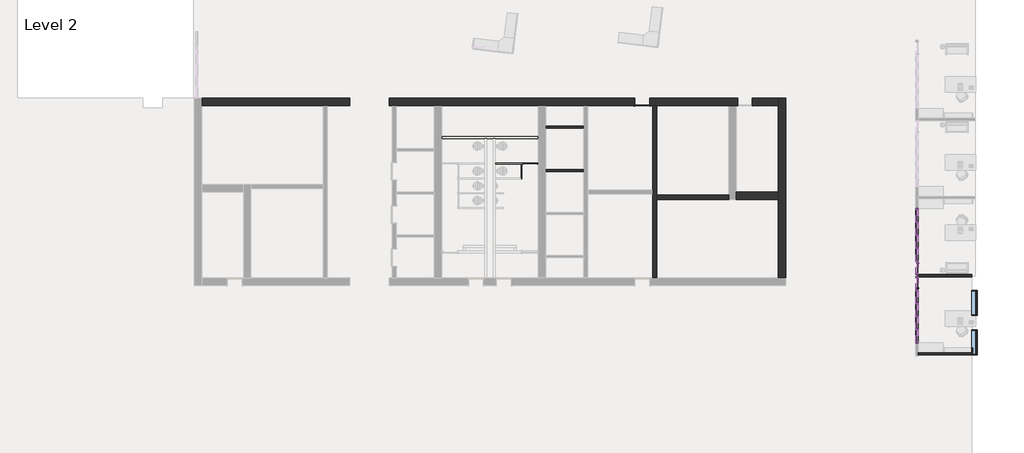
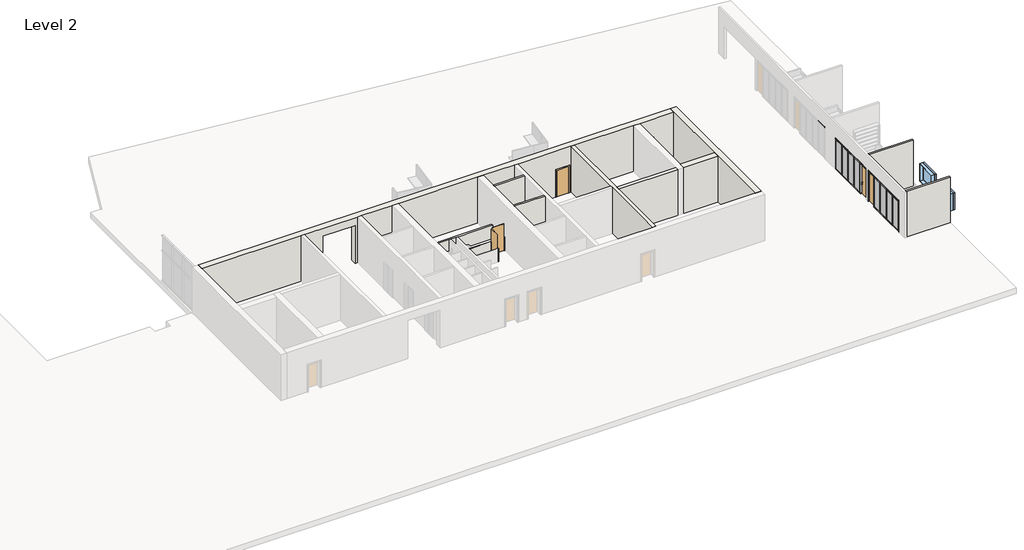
# One storey, part 2 of 7: 53 members, 18 plates, 12 walls, 5 doors, 2 windows.
"""IFC4 building model written with IfcOpenShell, lengths in millimetres."""

from ifc_helpers import new_model, si_unit, frame, origin, place, context, project, spatial, polyline, outline, extrude, faceted_brep, transform, mapped, element, save
from components import curtain_wall_sgl_glass_curtain_wall_sgl_glass_683140d0, curtain_wall_sgl_glass_curtain_wall_sgl_glass_5192a5a3, door_aec9db07, toilet_partitions_2_10_0724d611, door_243abaaa, member_9597caa3, member_b2bde9e6, member_ee409385, member_7ffbafd8, member_47ea2df9, member_5507c937, member_0e55f5ff, member_6d48148e, member_7899ddbe, system_panel_glazed_8093bbd9, system_panel_glazed_f9de1280, system_panel_glazed_6896c6c0, system_panel_glazed_50fd444c, window_7a027cf8

model = new_model("IFC4")

# Units and contexts
model_context = context("Model", 3, world=origin())
ifc_project = project(units=[si_unit("LENGTHUNIT", "METRE", prefix="MILLI")], contexts=[model_context])

# Site, building, storey
site = spatial("IfcSite", under=ifc_project)
building = spatial("IfcBuilding", under=site)
storey = spatial("IfcBuildingStorey", under=building, Name="Level 2", Elevation=3657.6)

# Doors
placement = place(None, origin())
curtain_wall_sgl_glass_curtain_wall_sgl_glass_shape = curtain_wall_sgl_glass_curtain_wall_sgl_glass_683140d0(model_context)
element("IfcDoor", 1, ObjectType="Curtain Wall Sgl Glass : Curtain Wall Sgl Glass", at=placement, inside=storey, context=model_context, shape_type="MappedRepresentation", body=[
    mapped(curtain_wall_sgl_glass_curtain_wall_sgl_glass_shape, transform((11449.2054088, -14715.1428492, 3657.6), x_axis=(0.0, 1.0, 0.0), y_axis=(-1.0, 0.0, 0.0), z_axis=(0.0, 0.0, 1.0))),
])
curtain_wall_sgl_glass_curtain_wall_sgl_glass_2_shape = curtain_wall_sgl_glass_curtain_wall_sgl_glass_5192a5a3(model_context)
element("IfcDoor", 2, ObjectType="Curtain Wall Sgl Glass : Curtain Wall Sgl Glass", at=placement, inside=storey, context=model_context, shape_type="MappedRepresentation", body=[
    mapped(curtain_wall_sgl_glass_curtain_wall_sgl_glass_2_shape, transform((11449.2054088, -13709.3028492, 3657.6), x_axis=(0.0, -1.0, 0.0), y_axis=(1.0, 0.0, 0.0), z_axis=(0.0, 0.0, 1.0))),
])
door_shape = door_aec9db07(model_context)
element("IfcDoor", 3, ObjectType="Single-Flush : 36\" x 84\"", at=placement, inside=storey, context=model_context, shape_type="MappedRepresentation", body=[
    mapped(door_shape, transform((-5525.0427926, -3469.6103492, 3657.6), x_axis=(1.0, 0.0, 0.0), y_axis=(0.0, 1.0, 0.0), z_axis=(0.0, 0.0, 1.0))),
])
toilet_partitions_2_10_shape = toilet_partitions_2_10_0724d611(model_context)
element("IfcDoor", 4, ObjectType="toilet Partitions : 2'10", at=placement, inside=storey, context=model_context, shape_type="MappedRepresentation", body=[
    mapped(toilet_partitions_2_10_shape, transform((-12449.7428559, -7282.7853492, 3657.6), x_axis=(1.0, 0.0, 0.0), y_axis=(0.0, 1.0, 0.0), z_axis=(0.0, 0.0, 1.0))),
])
door_2_shape = door_243abaaa(model_context)
element("IfcDoor", 5, ObjectType="toilet Partitions : 2'5\"", at=placement, inside=storey, context=model_context, shape_type="MappedRepresentation", body=[
    mapped(door_2_shape, transform((-12985.3856498, -7739.9853492, 3657.6), x_axis=(0.0, -1.0, 0.0), y_axis=(1.0, 0.0, 0.0), z_axis=(0.0, 0.0, 1.0))),
])

# Members
member_shape = member_9597caa3(model_context)
element("IfcMember", 6, ObjectType="Rectangular Mullion : 2.5\" x 5\" rectangular", at=placement, inside=storey, context=model_context, shape_type="MappedRepresentation", body=[
    mapped(member_shape, transform((11449.2054088, -13307.9828492, 3721.1), x_axis=(0.0, 1.0, 0.0), y_axis=(1.0, 0.0, 0.0), z_axis=(0.0, 0.0, -1.0))),
])
element("IfcMember", 7, ObjectType="Rectangular Mullion : 2.5\" x 5\" rectangular", at=placement, inside=storey, context=model_context, shape_type="MappedRepresentation", body=[
    mapped(member_shape, transform((11449.2054088, -12505.3428492, 3721.1), x_axis=(0.0, 1.0, 0.0), y_axis=(1.0, 0.0, 0.0), z_axis=(0.0, 0.0, -1.0))),
])
element("IfcMember", 8, ObjectType="Rectangular Mullion : 2.5\" x 5\" rectangular", at=placement, inside=storey, context=model_context, shape_type="MappedRepresentation", body=[
    mapped(member_shape, transform((11449.2054088, -11702.7028492, 3721.1), x_axis=(0.0, 1.0, 0.0), y_axis=(1.0, 0.0, 0.0), z_axis=(0.0, 0.0, -1.0))),
])
element("IfcMember", 9, ObjectType="Rectangular Mullion : 2.5\" x 5\" rectangular", at=placement, inside=storey, context=model_context, shape_type="MappedRepresentation", body=[
    mapped(member_shape, transform((11449.2054088, -10900.0628492, 3721.1), x_axis=(0.0, 1.0, 0.0), y_axis=(1.0, 0.0, 0.0), z_axis=(0.0, 0.0, -1.0))),
])
member_2_shape = member_b2bde9e6(model_context)
element("IfcMember", 10, ObjectType="Rectangular Mullion : 2.5\" x 5\" rectangular", at=placement, inside=storey, context=model_context, shape_type="MappedRepresentation", body=[
    mapped(member_2_shape, transform((11449.2054088, -10065.6728492, 3721.1), x_axis=(0.0, 1.0, 0.0), y_axis=(1.0, 0.0, 0.0), z_axis=(0.0, 0.0, -1.0))),
])
element("IfcMember", 11, ObjectType="Rectangular Mullion : 2.5\" x 5\" rectangular", at=placement, inside=storey, context=model_context, shape_type="MappedRepresentation", body=[
    mapped(member_shape, transform((11449.2054088, -15116.4628492, 3721.1), x_axis=(0.0, -1.0, 0.0), y_axis=(-1.0, 0.0, 0.0), z_axis=(0.0, 0.0, -1.0))),
])
element("IfcMember", 12, ObjectType="Rectangular Mullion : 2.5\" x 5\" rectangular", at=placement, inside=storey, context=model_context, shape_type="MappedRepresentation", body=[
    mapped(member_shape, transform((11449.2054088, -15919.1028492, 3721.1), x_axis=(0.0, -1.0, 0.0), y_axis=(-1.0, 0.0, 0.0), z_axis=(0.0, 0.0, -1.0))),
])
element("IfcMember", 13, ObjectType="Rectangular Mullion : 2.5\" x 5\" rectangular", at=placement, inside=storey, context=model_context, shape_type="MappedRepresentation", body=[
    mapped(member_shape, transform((11449.2054088, -16721.7428492, 3721.1), x_axis=(0.0, -1.0, 0.0), y_axis=(-1.0, 0.0, 0.0), z_axis=(0.0, 0.0, -1.0))),
])
element("IfcMember", 14, ObjectType="Rectangular Mullion : 2.5\" x 5\" rectangular", at=placement, inside=storey, context=model_context, shape_type="MappedRepresentation", body=[
    mapped(member_shape, transform((11449.2054088, -17524.3828492, 3721.1), x_axis=(0.0, -1.0, 0.0), y_axis=(-1.0, 0.0, 0.0), z_axis=(0.0, 0.0, -1.0))),
])
element("IfcMember", 15, ObjectType="Rectangular Mullion : 2.5\" x 5\" rectangular", at=placement, inside=storey, context=model_context, shape_type="MappedRepresentation", body=[
    mapped(member_2_shape, transform((11449.2054088, -18358.7728492, 3721.1), x_axis=(0.0, -1.0, 0.0), y_axis=(-1.0, 0.0, 0.0), z_axis=(0.0, 0.0, -1.0))),
])
member_3_shape = member_ee409385(model_context)
element("IfcMember", 16, ObjectType="Rectangular Mullion : 2.5\" x 5\" rectangular", at=placement, inside=storey, context=model_context, shape_type="MappedRepresentation", body=[
    mapped(member_3_shape, transform((11449.2054088, -14142.3728492, 6096.0), x_axis=(0.0, -1.0, 0.0), y_axis=(1.0, 0.0, 0.0), z_axis=(0.0, 0.0, 1.0))),
])
member_4_shape = member_7ffbafd8(model_context)
element("IfcMember", 17, ObjectType="Rectangular Mullion : 2.5\" x 5\" rectangular", at=placement, inside=storey, context=model_context, shape_type="MappedRepresentation", body=[
    mapped(member_4_shape, transform((11449.2054088, -8689.7642481, 6197.6), x_axis=(0.0, 0.0, 1.0), y_axis=(-1.0, 0.0, 0.0), z_axis=(0.0, -1.0, 0.0))),
])
element("IfcMember", 18, ObjectType="Rectangular Mullion : 2.5\" x 5\" rectangular", at=placement, inside=storey, context=model_context, shape_type="MappedRepresentation", body=[
    mapped(member_4_shape, transform((11449.2054088, -18358.7728492, 6197.6), x_axis=(0.0, 0.0, 1.0), y_axis=(-1.0, 0.0, 0.0), z_axis=(0.0, -1.0, 0.0))),
])
element("IfcMember", 19, ObjectType="Rectangular Mullion : 2.5\" x 5\" rectangular", at=placement, inside=storey, context=model_context, shape_type="MappedRepresentation", body=[
    mapped(member_4_shape, transform((11449.2054088, -15116.4628492, 6197.6), x_axis=(0.0, 0.0, 1.0), y_axis=(-1.0, 0.0, 0.0), z_axis=(0.0, -1.0, 0.0))),
])
element("IfcMember", 20, ObjectType="Rectangular Mullion : 2.5\" x 5\" rectangular", at=placement, inside=storey, context=model_context, shape_type="MappedRepresentation", body=[
    mapped(member_4_shape, transform((11449.2054088, -15084.7128492, 3657.6), x_axis=(0.0, 0.0, -1.0), y_axis=(-1.0, 0.0, 0.0), z_axis=(0.0, 1.0, 0.0))),
])
member_5_shape = member_47ea2df9(model_context)
element("IfcMember", 21, ObjectType="Rectangular Mullion : 2.5\" x 5\" rectangular", at=placement, inside=storey, context=model_context, shape_type="MappedRepresentation", body=[
    mapped(member_5_shape, transform((11449.2054088, -15919.1028492, 6096.0), x_axis=(0.0, 0.0, 1.0), y_axis=(-1.0, 0.0, 0.0), z_axis=(0.0, -1.0, 0.0))),
])
element("IfcMember", 22, ObjectType="Rectangular Mullion : 2.5\" x 5\" rectangular", at=placement, inside=storey, context=model_context, shape_type="MappedRepresentation", body=[
    mapped(member_5_shape, transform((11449.2054088, -16721.7428492, 6096.0), x_axis=(0.0, 0.0, 1.0), y_axis=(-1.0, 0.0, 0.0), z_axis=(0.0, -1.0, 0.0))),
])
element("IfcMember", 23, ObjectType="Rectangular Mullion : 2.5\" x 5\" rectangular", at=placement, inside=storey, context=model_context, shape_type="MappedRepresentation", body=[
    mapped(member_5_shape, transform((11449.2054088, -17524.3828492, 6096.0), x_axis=(0.0, 0.0, 1.0), y_axis=(-1.0, 0.0, 0.0), z_axis=(0.0, -1.0, 0.0))),
])
member_6_shape = member_5507c937(model_context)
element("IfcMember", 24, ObjectType="Rectangular Mullion : 2.5\" x 5\" rectangular", at=placement, inside=storey, context=model_context, shape_type="MappedRepresentation", body=[
    mapped(member_6_shape, transform((11449.2054088, -15919.1028492, 6197.6), x_axis=(0.0, 0.0, 1.0), y_axis=(-1.0, 0.0, 0.0), z_axis=(0.0, -1.0, 0.0))),
])
element("IfcMember", 25, ObjectType="Rectangular Mullion : 2.5\" x 5\" rectangular", at=placement, inside=storey, context=model_context, shape_type="MappedRepresentation", body=[
    mapped(member_6_shape, transform((11449.2054088, -16721.7428492, 6197.6), x_axis=(0.0, 0.0, 1.0), y_axis=(-1.0, 0.0, 0.0), z_axis=(0.0, -1.0, 0.0))),
])
element("IfcMember", 26, ObjectType="Rectangular Mullion : 2.5\" x 5\" rectangular", at=placement, inside=storey, context=model_context, shape_type="MappedRepresentation", body=[
    mapped(member_6_shape, transform((11449.2054088, -17524.3828492, 6197.6), x_axis=(0.0, 0.0, 1.0), y_axis=(-1.0, 0.0, 0.0), z_axis=(0.0, -1.0, 0.0))),
])
element("IfcMember", 27, ObjectType="Rectangular Mullion : 2.5\" x 5\" rectangular", at=placement, inside=storey, context=model_context, shape_type="MappedRepresentation", body=[
    mapped(member_6_shape, transform((11449.2054088, -15919.1028492, 3657.6), x_axis=(0.0, 0.0, -1.0), y_axis=(-1.0, 0.0, 0.0), z_axis=(0.0, 1.0, 0.0))),
])
element("IfcMember", 28, ObjectType="Rectangular Mullion : 2.5\" x 5\" rectangular", at=placement, inside=storey, context=model_context, shape_type="MappedRepresentation", body=[
    mapped(member_6_shape, transform((11449.2054088, -16721.7428492, 3657.6), x_axis=(0.0, 0.0, -1.0), y_axis=(-1.0, 0.0, 0.0), z_axis=(0.0, 1.0, 0.0))),
])
element("IfcMember", 29, ObjectType="Rectangular Mullion : 2.5\" x 5\" rectangular", at=placement, inside=storey, context=model_context, shape_type="MappedRepresentation", body=[
    mapped(member_4_shape, transform((11449.2054088, -17524.3828492, 3657.6), x_axis=(0.0, 0.0, -1.0), y_axis=(-1.0, 0.0, 0.0), z_axis=(0.0, 1.0, 0.0))),
])
member_7_shape = member_0e55f5ff(model_context)
element("IfcMember", 30, ObjectType="Rectangular Mullion : 2.5\" x 5\" rectangular", at=placement, inside=storey, context=model_context, shape_type="MappedRepresentation", body=[
    mapped(member_7_shape, transform((11449.2054088, -18295.2728492, 6096.0), x_axis=(0.0, 0.0, 1.0), y_axis=(-1.0, 0.0, 0.0), z_axis=(0.0, -1.0, 0.0))),
])
element("IfcMember", 31, ObjectType="Rectangular Mullion : 2.5\" x 5\" rectangular", at=placement, inside=storey, context=model_context, shape_type="MappedRepresentation", body=[
    mapped(member_7_shape, transform((11449.2054088, -15116.4628492, 6096.0), x_axis=(0.0, 0.0, 1.0), y_axis=(-1.0, 0.0, 0.0), z_axis=(0.0, -1.0, 0.0))),
])
element("IfcMember", 32, ObjectType="Rectangular Mullion : 2.5\" x 5\" rectangular", at=placement, inside=storey, context=model_context, shape_type="MappedRepresentation", body=[
    mapped(member_3_shape, transform((11449.2054088, -14282.0728492, 6096.0), x_axis=(0.0, 1.0, 0.0), y_axis=(-1.0, 0.0, 0.0), z_axis=(0.0, 0.0, 1.0))),
])
element("IfcMember", 33, ObjectType="Rectangular Mullion : 2.5\" x 5\" rectangular", at=placement, inside=storey, context=model_context, shape_type="MappedRepresentation", body=[
    mapped(member_4_shape, transform((11449.2054088, -10065.6728492, 6197.6), x_axis=(0.0, 0.0, 1.0), y_axis=(1.0, 0.0, 0.0), z_axis=(0.0, 1.0, 0.0))),
])
element("IfcMember", 34, ObjectType="Rectangular Mullion : 2.5\" x 5\" rectangular", at=placement, inside=storey, context=model_context, shape_type="MappedRepresentation", body=[
    mapped(member_4_shape, transform((11449.2054088, -13307.9828492, 6197.6), x_axis=(0.0, 0.0, 1.0), y_axis=(1.0, 0.0, 0.0), z_axis=(0.0, 1.0, 0.0))),
])
element("IfcMember", 35, ObjectType="Rectangular Mullion : 2.5\" x 5\" rectangular", at=placement, inside=storey, context=model_context, shape_type="MappedRepresentation", body=[
    mapped(member_4_shape, transform((11449.2054088, -13339.7328492, 3657.6), x_axis=(0.0, 0.0, -1.0), y_axis=(1.0, 0.0, 0.0), z_axis=(0.0, -1.0, 0.0))),
])
element("IfcMember", 36, ObjectType="Rectangular Mullion : 2.5\" x 5\" rectangular", at=placement, inside=storey, context=model_context, shape_type="MappedRepresentation", body=[
    mapped(member_5_shape, transform((11449.2054088, -12505.3428492, 6096.0), x_axis=(0.0, 0.0, 1.0), y_axis=(1.0, 0.0, 0.0), z_axis=(0.0, 1.0, 0.0))),
])
element("IfcMember", 37, ObjectType="Rectangular Mullion : 2.5\" x 5\" rectangular", at=placement, inside=storey, context=model_context, shape_type="MappedRepresentation", body=[
    mapped(member_5_shape, transform((11449.2054088, -11702.7028492, 6096.0), x_axis=(0.0, 0.0, 1.0), y_axis=(1.0, 0.0, 0.0), z_axis=(0.0, 1.0, 0.0))),
])
element("IfcMember", 38, ObjectType="Rectangular Mullion : 2.5\" x 5\" rectangular", at=placement, inside=storey, context=model_context, shape_type="MappedRepresentation", body=[
    mapped(member_5_shape, transform((11449.2054088, -10900.0628492, 6096.0), x_axis=(0.0, 0.0, 1.0), y_axis=(1.0, 0.0, 0.0), z_axis=(0.0, 1.0, 0.0))),
])
element("IfcMember", 39, ObjectType="Rectangular Mullion : 2.5\" x 5\" rectangular", at=placement, inside=storey, context=model_context, shape_type="MappedRepresentation", body=[
    mapped(member_6_shape, transform((11449.2054088, -12505.3428492, 6197.6), x_axis=(0.0, 0.0, 1.0), y_axis=(1.0, 0.0, 0.0), z_axis=(0.0, 1.0, 0.0))),
])
element("IfcMember", 40, ObjectType="Rectangular Mullion : 2.5\" x 5\" rectangular", at=placement, inside=storey, context=model_context, shape_type="MappedRepresentation", body=[
    mapped(member_6_shape, transform((11449.2054088, -11702.7028492, 6197.6), x_axis=(0.0, 0.0, 1.0), y_axis=(1.0, 0.0, 0.0), z_axis=(0.0, 1.0, 0.0))),
])
element("IfcMember", 41, ObjectType="Rectangular Mullion : 2.5\" x 5\" rectangular", at=placement, inside=storey, context=model_context, shape_type="MappedRepresentation", body=[
    mapped(member_6_shape, transform((11449.2054088, -10900.0628492, 6197.6), x_axis=(0.0, 0.0, 1.0), y_axis=(1.0, 0.0, 0.0), z_axis=(0.0, 1.0, 0.0))),
])
element("IfcMember", 42, ObjectType="Rectangular Mullion : 2.5\" x 5\" rectangular", at=placement, inside=storey, context=model_context, shape_type="MappedRepresentation", body=[
    mapped(member_6_shape, transform((11449.2054088, -12505.3428492, 3657.6), x_axis=(0.0, 0.0, -1.0), y_axis=(1.0, 0.0, 0.0), z_axis=(0.0, -1.0, 0.0))),
])
element("IfcMember", 43, ObjectType="Rectangular Mullion : 2.5\" x 5\" rectangular", at=placement, inside=storey, context=model_context, shape_type="MappedRepresentation", body=[
    mapped(member_6_shape, transform((11449.2054088, -11702.7028492, 3657.6), x_axis=(0.0, 0.0, -1.0), y_axis=(1.0, 0.0, 0.0), z_axis=(0.0, -1.0, 0.0))),
])
element("IfcMember", 44, ObjectType="Rectangular Mullion : 2.5\" x 5\" rectangular", at=placement, inside=storey, context=model_context, shape_type="MappedRepresentation", body=[
    mapped(member_4_shape, transform((11449.2054088, -10900.0628492, 3657.6), x_axis=(0.0, 0.0, -1.0), y_axis=(1.0, 0.0, 0.0), z_axis=(0.0, -1.0, 0.0))),
])
element("IfcMember", 45, ObjectType="Rectangular Mullion : 2.5\" x 5\" rectangular", at=placement, inside=storey, context=model_context, shape_type="MappedRepresentation", body=[
    mapped(member_7_shape, transform((11449.2054088, -10129.1728492, 6096.0), x_axis=(0.0, 0.0, 1.0), y_axis=(1.0, 0.0, 0.0), z_axis=(0.0, 1.0, 0.0))),
])
element("IfcMember", 46, ObjectType="Rectangular Mullion : 2.5\" x 5\" rectangular", at=placement, inside=storey, context=model_context, shape_type="MappedRepresentation", body=[
    mapped(member_7_shape, transform((11449.2054088, -13307.9828492, 6096.0), x_axis=(0.0, 0.0, 1.0), y_axis=(1.0, 0.0, 0.0), z_axis=(0.0, 1.0, 0.0))),
])
member_8_shape = member_6d48148e(model_context)
element("IfcMember", 47, ObjectType="Rectangular Mullion : 2.5\" x 5\" rectangular", at=placement, inside=storey, context=model_context, shape_type="MappedRepresentation", body=[
    mapped(member_8_shape, transform((11449.2054088, -13307.9828492, 6127.75), x_axis=(0.0, 1.0, 0.0), y_axis=(1.0, 0.0, 0.0), z_axis=(0.0, 0.0, -1.0))),
])
element("IfcMember", 48, ObjectType="Rectangular Mullion : 2.5\" x 5\" rectangular", at=placement, inside=storey, context=model_context, shape_type="MappedRepresentation", body=[
    mapped(member_8_shape, transform((11449.2054088, -12505.3428492, 6127.75), x_axis=(0.0, 1.0, 0.0), y_axis=(1.0, 0.0, 0.0), z_axis=(0.0, 0.0, -1.0))),
])
element("IfcMember", 49, ObjectType="Rectangular Mullion : 2.5\" x 5\" rectangular", at=placement, inside=storey, context=model_context, shape_type="MappedRepresentation", body=[
    mapped(member_8_shape, transform((11449.2054088, -11702.7028492, 6127.75), x_axis=(0.0, 1.0, 0.0), y_axis=(1.0, 0.0, 0.0), z_axis=(0.0, 0.0, -1.0))),
])
element("IfcMember", 50, ObjectType="Rectangular Mullion : 2.5\" x 5\" rectangular", at=placement, inside=storey, context=model_context, shape_type="MappedRepresentation", body=[
    mapped(member_8_shape, transform((11449.2054088, -10900.0628492, 6127.75), x_axis=(0.0, 1.0, 0.0), y_axis=(1.0, 0.0, 0.0), z_axis=(0.0, 0.0, -1.0))),
])
member_9_shape = member_7899ddbe(model_context)
element("IfcMember", 51, ObjectType="Rectangular Mullion : 2.5\" x 5\" rectangular", at=placement, inside=storey, context=model_context, shape_type="MappedRepresentation", body=[
    mapped(member_9_shape, transform((11449.2054088, -10065.6728492, 6096.0), x_axis=(0.0, 1.0, 0.0), y_axis=(1.0, 0.0, 0.0), z_axis=(0.0, 0.0, -1.0))),
])
element("IfcMember", 52, ObjectType="Rectangular Mullion : 2.5\" x 5\" rectangular", at=placement, inside=storey, context=model_context, shape_type="MappedRepresentation", body=[
    mapped(member_9_shape, transform((11449.2054088, -14142.3728492, 6134.1), x_axis=(0.0, -1.0, 0.0), y_axis=(1.0, 0.0, 0.0), z_axis=(0.0, 0.0, 1.0))),
])
element("IfcMember", 53, ObjectType="Rectangular Mullion : 2.5\" x 5\" rectangular", at=placement, inside=storey, context=model_context, shape_type="MappedRepresentation", body=[
    mapped(member_8_shape, transform((11449.2054088, -15116.4628492, 6127.75), x_axis=(0.0, -1.0, 0.0), y_axis=(-1.0, 0.0, 0.0), z_axis=(0.0, 0.0, -1.0))),
])
element("IfcMember", 54, ObjectType="Rectangular Mullion : 2.5\" x 5\" rectangular", at=placement, inside=storey, context=model_context, shape_type="MappedRepresentation", body=[
    mapped(member_8_shape, transform((11449.2054088, -15919.1028492, 6127.75), x_axis=(0.0, -1.0, 0.0), y_axis=(-1.0, 0.0, 0.0), z_axis=(0.0, 0.0, -1.0))),
])
element("IfcMember", 55, ObjectType="Rectangular Mullion : 2.5\" x 5\" rectangular", at=placement, inside=storey, context=model_context, shape_type="MappedRepresentation", body=[
    mapped(member_8_shape, transform((11449.2054088, -16721.7428492, 6127.75), x_axis=(0.0, -1.0, 0.0), y_axis=(-1.0, 0.0, 0.0), z_axis=(0.0, 0.0, -1.0))),
])
element("IfcMember", 56, ObjectType="Rectangular Mullion : 2.5\" x 5\" rectangular", at=placement, inside=storey, context=model_context, shape_type="MappedRepresentation", body=[
    mapped(member_8_shape, transform((11449.2054088, -17524.3828492, 6127.75), x_axis=(0.0, -1.0, 0.0), y_axis=(-1.0, 0.0, 0.0), z_axis=(0.0, 0.0, -1.0))),
])
element("IfcMember", 57, ObjectType="Rectangular Mullion : 2.5\" x 5\" rectangular", at=placement, inside=storey, context=model_context, shape_type="MappedRepresentation", body=[
    mapped(member_9_shape, transform((11449.2054088, -18358.7728492, 6096.0), x_axis=(0.0, -1.0, 0.0), y_axis=(-1.0, 0.0, 0.0), z_axis=(0.0, 0.0, -1.0))),
])
element("IfcMember", 58, ObjectType="Rectangular Mullion : 2.5\" x 5\" rectangular", at=placement, inside=storey, context=model_context, shape_type="MappedRepresentation", body=[
    mapped(member_9_shape, transform((11449.2054088, -14282.0728492, 6134.1), x_axis=(0.0, 1.0, 0.0), y_axis=(-1.0, 0.0, 0.0), z_axis=(0.0, 0.0, 1.0))),
])

# Plates
system_panel_glazed_shape = system_panel_glazed_8093bbd9(model_context)
element("IfcPlate", 59, ObjectType="System Panel : Glazed", at=placement, inside=storey, context=model_context, shape_type="MappedRepresentation", body=[
    mapped(system_panel_glazed_shape, transform((11449.2054088, -15517.7828492, 3721.1), x_axis=(0.0, -1.0, 0.0), y_axis=(1.0, 0.0, 0.0), z_axis=(0.0, 0.0, 1.0))),
])
element("IfcPlate", 60, ObjectType="System Panel : Glazed", at=placement, inside=storey, context=model_context, shape_type="MappedRepresentation", body=[
    mapped(system_panel_glazed_shape, transform((11449.2054088, -16320.4228492, 3721.1), x_axis=(0.0, -1.0, 0.0), y_axis=(1.0, 0.0, 0.0), z_axis=(0.0, 0.0, 1.0))),
])
element("IfcPlate", 61, ObjectType="System Panel : Glazed", at=placement, inside=storey, context=model_context, shape_type="MappedRepresentation", body=[
    mapped(system_panel_glazed_shape, transform((11449.2054088, -17123.0628492, 3721.1), x_axis=(0.0, -1.0, 0.0), y_axis=(1.0, 0.0, 0.0), z_axis=(0.0, 0.0, 1.0))),
])
element("IfcPlate", 62, ObjectType="System Panel : Glazed", at=placement, inside=storey, context=model_context, shape_type="MappedRepresentation", body=[
    mapped(system_panel_glazed_shape, transform((11449.2054088, -17925.7028492, 3721.1), x_axis=(0.0, -1.0, 0.0), y_axis=(1.0, 0.0, 0.0), z_axis=(0.0, 0.0, 1.0))),
])
system_panel_glazed_2_shape = system_panel_glazed_f9de1280(model_context)
element("IfcPlate", 63, ObjectType="System Panel : Glazed", at=placement, inside=storey, context=model_context, shape_type="MappedRepresentation", body=[
    mapped(system_panel_glazed_2_shape, transform((11449.2054088, -12906.6628492, 3721.1), x_axis=(0.0, 1.0, 0.0), y_axis=(-1.0, 0.0, 0.0), z_axis=(0.0, 0.0, 1.0))),
])
element("IfcPlate", 64, ObjectType="System Panel : Glazed", at=placement, inside=storey, context=model_context, shape_type="MappedRepresentation", body=[
    mapped(system_panel_glazed_2_shape, transform((11449.2054088, -12104.0228492, 3721.1), x_axis=(0.0, 1.0, 0.0), y_axis=(-1.0, 0.0, 0.0), z_axis=(0.0, 0.0, 1.0))),
])
element("IfcPlate", 65, ObjectType="System Panel : Glazed", at=placement, inside=storey, context=model_context, shape_type="MappedRepresentation", body=[
    mapped(system_panel_glazed_2_shape, transform((11449.2054088, -11301.3828492, 3721.1), x_axis=(0.0, 1.0, 0.0), y_axis=(-1.0, 0.0, 0.0), z_axis=(0.0, 0.0, 1.0))),
])
element("IfcPlate", 66, ObjectType="System Panel : Glazed", at=placement, inside=storey, context=model_context, shape_type="MappedRepresentation", body=[
    mapped(system_panel_glazed_2_shape, transform((11449.2054088, -10498.7428492, 3721.1), x_axis=(0.0, 1.0, 0.0), y_axis=(-1.0, 0.0, 0.0), z_axis=(0.0, 0.0, 1.0))),
])
system_panel_glazed_3_shape = system_panel_glazed_6896c6c0(model_context)
element("IfcPlate", 67, ObjectType="System Panel : Glazed", at=placement, inside=storey, context=model_context, shape_type="MappedRepresentation", body=[
    mapped(system_panel_glazed_3_shape, transform((11449.2054088, -13709.3028492, 6127.75), x_axis=(0.0, 1.0, 0.0), y_axis=(-1.0, 0.0, 0.0), z_axis=(0.0, 0.0, 1.0))),
])
element("IfcPlate", 68, ObjectType="System Panel : Glazed", at=placement, inside=storey, context=model_context, shape_type="MappedRepresentation", body=[
    mapped(system_panel_glazed_3_shape, transform((11449.2054088, -12906.6628492, 6127.75), x_axis=(0.0, 1.0, 0.0), y_axis=(-1.0, 0.0, 0.0), z_axis=(0.0, 0.0, 1.0))),
])
element("IfcPlate", 69, ObjectType="System Panel : Glazed", at=placement, inside=storey, context=model_context, shape_type="MappedRepresentation", body=[
    mapped(system_panel_glazed_3_shape, transform((11449.2054088, -12104.0228492, 6127.75), x_axis=(0.0, 1.0, 0.0), y_axis=(-1.0, 0.0, 0.0), z_axis=(0.0, 0.0, 1.0))),
])
element("IfcPlate", 70, ObjectType="System Panel : Glazed", at=placement, inside=storey, context=model_context, shape_type="MappedRepresentation", body=[
    mapped(system_panel_glazed_3_shape, transform((11449.2054088, -11301.3828492, 6127.75), x_axis=(0.0, 1.0, 0.0), y_axis=(-1.0, 0.0, 0.0), z_axis=(0.0, 0.0, 1.0))),
])
element("IfcPlate", 71, ObjectType="System Panel : Glazed", at=placement, inside=storey, context=model_context, shape_type="MappedRepresentation", body=[
    mapped(system_panel_glazed_3_shape, transform((11449.2054088, -10498.7428492, 6127.75), x_axis=(0.0, 1.0, 0.0), y_axis=(-1.0, 0.0, 0.0), z_axis=(0.0, 0.0, 1.0))),
])
system_panel_glazed_4_shape = system_panel_glazed_50fd444c(model_context)
element("IfcPlate", 72, ObjectType="System Panel : Glazed", at=placement, inside=storey, context=model_context, shape_type="MappedRepresentation", body=[
    mapped(system_panel_glazed_4_shape, transform((11449.2054088, -14715.1428492, 6127.75), x_axis=(0.0, -1.0, 0.0), y_axis=(1.0, 0.0, 0.0), z_axis=(0.0, 0.0, 1.0))),
])
element("IfcPlate", 73, ObjectType="System Panel : Glazed", at=placement, inside=storey, context=model_context, shape_type="MappedRepresentation", body=[
    mapped(system_panel_glazed_4_shape, transform((11449.2054088, -15517.7828492, 6127.75), x_axis=(0.0, -1.0, 0.0), y_axis=(1.0, 0.0, 0.0), z_axis=(0.0, 0.0, 1.0))),
])
element("IfcPlate", 74, ObjectType="System Panel : Glazed", at=placement, inside=storey, context=model_context, shape_type="MappedRepresentation", body=[
    mapped(system_panel_glazed_4_shape, transform((11449.2054088, -16320.4228492, 6127.75), x_axis=(0.0, -1.0, 0.0), y_axis=(1.0, 0.0, 0.0), z_axis=(0.0, 0.0, 1.0))),
])
element("IfcPlate", 75, ObjectType="System Panel : Glazed", at=placement, inside=storey, context=model_context, shape_type="MappedRepresentation", body=[
    mapped(system_panel_glazed_4_shape, transform((11449.2054088, -17123.0628492, 6127.75), x_axis=(0.0, -1.0, 0.0), y_axis=(1.0, 0.0, 0.0), z_axis=(0.0, 0.0, 1.0))),
])
element("IfcPlate", 76, ObjectType="System Panel : Glazed", at=placement, inside=storey, context=model_context, shape_type="MappedRepresentation", body=[
    mapped(system_panel_glazed_4_shape, transform((11449.2054088, -17925.7028492, 6127.75), x_axis=(0.0, -1.0, 0.0), y_axis=(1.0, 0.0, 0.0), z_axis=(0.0, 0.0, 1.0))),
])

# Walls
element("IfcWall", 77, ObjectType="Core-shaft 10\" Concrete", at=placement, inside=storey, context=model_context, shape_type="Brep", body=[
    faceted_brep([(-4636.0427926, -14366.2103492, 3657.6), (-4636.0427926, -9489.4103492, 3657.6), (-4636.0427926, -9235.4103492, 3657.6), (-4636.0427926, -3698.2103492, 3657.6), (-4636.0427926, -3698.2103492, 7315.2), (-4636.0427926, -9235.4103492, 7315.2), (-4636.0427926, -9489.4103492, 7315.2), (-4636.0427926, -14366.2103492, 7315.2), (-4890.0427926, -14366.2103492, 3657.6), (-4890.0427926, -14366.2103492, 7315.2), (-4890.0427926, -3698.2103492, 7315.2), (-4890.0427926, -3698.2103492, 3657.6)], [[[0, 1, 2, 3, 4, 5, 6, 7]], [[8, 9, 10, 11]], [[3, 2, 1, 0, 8, 11]], [[7, 6, 5, 4, 10, 9]], [[0, 7, 9, 8]], [[4, 3, 11, 10]]]),
])
element("IfcWall", 78, ObjectType="Core-shaft 10\" Concrete", at=placement, inside=storey, context=model_context, shape_type="SweptSolid", body=[
    extrude(outline(polyline([(-4636.0427926, -9235.4103492), (-172.8999355, -9235.4103492), (-172.8999355, -9489.4103492), (-4636.0427926, -9489.4103492), (-4636.0427926, -9235.4103492)])), frame((0.0, 0.0, 3657.6), z_axis=(0.0, 0.0, 1.0), x_axis=(1.0, 0.0, 0.0)), (0.0, 0.0, 1.0), 3657.6),
])
element("IfcWall", 79, ObjectType="Core-shaft 18\" Concrete", at=placement, inside=storey, context=model_context, shape_type="Brep", body=[
    faceted_brep([(2867.8429217, -3241.0103492, 3657.6), (2867.8429217, -3698.2103492, 3657.6), (2867.8429217, -9032.2103492, 3657.6), (2867.8429217, -9489.4103492, 3657.6), (2867.8429217, -14366.2103492, 3657.6), (2867.8429217, -14366.2103492, 7315.2), (2867.8429217, -9489.4103492, 7315.2), (2867.8429217, -9032.2103492, 7315.2), (2867.8429217, -3698.2103492, 7315.2), (2867.8429217, -3241.0103492, 7315.2), (3325.0429217, -3241.0103492, 3657.6), (3325.0429217, -3241.0103492, 7315.2), (3325.0429217, -14366.2103492, 7315.2), (3325.0429217, -14366.2103492, 3657.6)], [[[0, 1, 2, 3, 4, 5, 6, 7, 8, 9]], [[10, 11, 12, 13]], [[4, 3, 2, 1, 0, 10, 13]], [[9, 8, 7, 6, 5, 12, 11]], [[5, 4, 13, 12]], [[0, 9, 11, 10]]]),
])
element("IfcWall", 80, ObjectType="Core-shaft 18\" Concrete", at=placement, inside=storey, context=model_context, shape_type="SweptSolid", body=[
    extrude(outline(polyline([(2867.8429217, -9489.4103492), (284.3000645, -9489.4103492), (284.3000645, -9032.2103492), (2867.8429217, -9032.2103492), (2867.8429217, -9489.4103492)])), frame((0.0, 0.0, 3657.6), z_axis=(0.0, 0.0, 1.0), x_axis=(1.0, 0.0, 0.0)), (0.0, 0.0, 1.0), 3657.6),
])
element("IfcWall", 81, ObjectType="Core-shaft 18\" Concrete", at=placement, inside=storey, context=model_context, shape_type="Brep", body=[
    faceted_brep([(-5067.8427926, -3698.2103492, 5791.2), (-5067.8427926, -3698.2103492, 3657.6), (-4890.0427926, -3698.2103492, 3657.6), (-4636.0427926, -3698.2103492, 3657.6), (-172.8999355, -3698.2103492, 3657.6), (284.3000645, -3698.2103492, 3657.6), (360.5000645, -3698.2103492, 3657.6), (360.5000645, -3698.2103492, 5791.2), (1274.9000645, -3698.2103492, 5791.2), (1274.9000645, -3698.2103492, 3657.6), (2867.8429217, -3698.2103492, 3657.6), (2867.8429217, -3698.2103492, 7315.2), (284.3000645, -3698.2103492, 7315.2), (-172.8999355, -3698.2103492, 7315.2), (-4636.0427926, -3698.2103492, 7315.2), (-4890.0427926, -3698.2103492, 7315.2), (-8903.2427926, -3698.2103492, 7315.2), (-9157.2427926, -3698.2103492, 7315.2), (-11497.2428559, -3698.2103492, 7315.2), (-11954.4428559, -3698.2103492, 7315.2), (-17927.9284437, -3698.2103492, 7315.2), (-18385.1284437, -3698.2103492, 7315.2), (-20725.1285069, -3698.2103492, 7315.2), (-20979.1285069, -3698.2103492, 7315.2), (-24992.3285069, -3698.2103492, 7315.2), (-25246.3285069, -3698.2103492, 7315.2), (-32750.2142212, -3698.2103492, 7315.2), (-32750.2142212, -3698.2103492, 3657.6), (-25246.3285069, -3698.2103492, 3657.6), (-24992.3285069, -3698.2103492, 3657.6), (-23606.2142212, -3698.2103492, 3657.6), (-23606.2142212, -3698.2103492, 6705.6), (-21167.8142212, -3698.2103492, 6705.6), (-21167.8142212, -3698.2103492, 3657.6), (-20979.1285069, -3698.2103492, 3657.6), (-20725.1285069, -3698.2103492, 3657.6), (-18385.1284437, -3698.2103492, 3657.6), (-17927.9284437, -3698.2103492, 3657.6), (-11954.4428559, -3698.2103492, 3657.6), (-11497.2428559, -3698.2103492, 3657.6), (-9157.2427926, -3698.2103492, 3657.6), (-8903.2427926, -3698.2103492, 3657.6), (-5982.2427926, -3698.2103492, 3657.6), (-5982.2427926, -3698.2103492, 5791.2), (360.5000645, -3241.0103492, 3657.6), (-5067.8427926, -3241.0103492, 3657.6), (-5067.8427926, -3241.0103492, 5791.2), (-5982.2427926, -3241.0103492, 5791.2), (-5982.2427926, -3241.0103492, 3657.6), (-21167.8142212, -3241.0103492, 3657.6), (-21167.8142212, -3241.0103492, 6705.6), (-23606.2142212, -3241.0103492, 6705.6), (-23606.2142212, -3241.0103492, 3657.6), (-32750.2142212, -3241.0103492, 3657.6), (-32750.2142212, -3241.0103492, 7315.2), (2867.8429217, -3241.0103492, 7315.2), (2867.8429217, -3241.0103492, 3657.6), (1274.9000645, -3241.0103492, 3657.6), (1274.9000645, -3241.0103492, 5791.2), (360.5000645, -3241.0103492, 5791.2)], [[[0, 1, 2, 3, 4, 5, 6, 7, 8, 9, 10, 11, 12, 13, 14, 15, 16, 17, 18, 19, 20, 21, 22, 23, 24, 25, 26, 27, 28, 29, 30, 31, 32, 33, 34, 35, 36, 37, 38, 39, 40, 41, 42, 43]], [[44, 45, 46, 47, 48, 49, 50, 51, 52, 53, 54, 55, 56, 57, 58, 59]], [[57, 56, 10, 9]], [[42, 41, 40, 39, 38, 37, 36, 35, 34, 33, 49, 48]], [[6, 5, 4, 3, 2, 1, 45, 44]], [[27, 53, 52, 30, 29, 28]], [[26, 25, 24, 23, 22, 21, 20, 19, 18, 17, 16, 15, 14, 13, 12, 11, 55, 54]], [[31, 51, 50, 32]], [[51, 31, 30, 52]], [[32, 50, 49, 33]], [[7, 6, 44, 59]], [[8, 7, 59, 58]], [[9, 8, 58, 57]], [[46, 45, 1, 0]], [[47, 46, 0, 43]], [[48, 47, 43, 42]], [[11, 10, 56, 55]], [[27, 26, 54, 53]]]),
])
element("IfcWall", 82, ObjectType="Generic - 5\"", at=placement, inside=storey, context=model_context, shape_type="SweptSolid", body=[
    extrude(outline(polyline([(-11497.2428559, -7635.2103492), (-9157.2427926, -7635.2103492), (-9157.2427926, -7762.2103492), (-11497.2428559, -7762.2103492), (-11497.2428559, -7635.2103492)])), frame((0.0, 0.0, 3657.6), z_axis=(0.0, 0.0, 1.0), x_axis=(1.0, 0.0, 0.0)), (0.0, 0.0, 1.0), 3657.6),
])
element("IfcWall", 83, ObjectType="Generic - 5\"", at=placement, inside=storey, context=model_context, shape_type="SweptSolid", body=[
    extrude(outline(polyline([(-11497.2428559, -4968.2103492), (-9157.2427926, -4968.2103492), (-9157.2427926, -5095.2103492), (-11497.2428559, -5095.2103492), (-11497.2428559, -4968.2103492)])), frame((0.0, 0.0, 3657.6), z_axis=(0.0, 0.0, 1.0), x_axis=(1.0, 0.0, 0.0)), (0.0, 0.0, 1.0), 3657.6),
])
element("IfcWall", 84, ObjectType="Interior - 5 1/2\" Partition (1-hr)", at=placement, inside=storey, context=model_context, shape_type="Brep", body=[
    faceted_brep([(14830.5804088, -14142.3728492, 3657.6), (11519.0554088, -14142.3728492, 3657.6), (11519.0554088, -14142.3728492, 6197.6), (11519.0554088, -14142.3728492, 7315.2), (14830.5804088, -14142.3728492, 7315.2), (14830.5804088, -14282.0728492, 3657.6), (14830.5804088, -14282.0728492, 7315.2), (11519.0554088, -14282.0728492, 7315.2), (11519.0554088, -14282.0728492, 6197.6), (11519.0554088, -14282.0728492, 3657.6), (14830.5804088, -14218.4266737, 3657.6)], [[[0, 1, 2, 3, 4]], [[5, 6, 7, 8, 9]], [[1, 0, 10, 5, 9]], [[4, 3, 7, 6]], [[3, 2, 1, 9, 8, 7]], [[0, 4, 6, 5, 10]]]),
])
element("IfcWall", 85, ObjectType="Interior - 5 1/2\" Partition (1-hr)", at=placement, inside=storey, context=model_context, shape_type="SweptSolid", body=[
    extrude(outline(polyline([(11519.0554088, -18976.8771498), (14830.5804088, -18976.8771498), (14830.5804088, -19116.5771498), (11519.0554088, -19116.5771498), (11519.0554088, -18976.8771498)])), frame((0.0, 0.0, 3657.6), z_axis=(0.0, 0.0, 1.0), x_axis=(1.0, 0.0, 0.0)), (0.0, 0.0, 1.0), 3657.6),
])
element("IfcWall", 86, ObjectType="Interior - Generic - 5\"", at=placement, inside=storey, context=model_context, shape_type="Brep", body=[
    faceted_brep([(-17927.9284437, -5742.9103492, 3657.6), (-15258.6856498, -5742.9103492, 3657.6), (-15131.6856498, -5742.9103492, 3657.6), (-14750.6856498, -5742.9103492, 3657.6), (-14623.6856498, -5742.9103492, 3657.6), (-11954.4428559, -5742.9103492, 3657.6), (-11954.4428559, -5742.9103492, 4724.4), (-14623.6856498, -5742.9103492, 4724.4), (-14750.6856498, -5742.9103492, 4724.4), (-15131.6856498, -5742.9103492, 4724.4), (-15258.6856498, -5742.9103492, 4724.4), (-17927.9284437, -5742.9103492, 4724.4), (-17927.9284437, -5615.9103492, 3657.6), (-17927.9284437, -5615.9103492, 4724.4), (-11954.4428559, -5615.9103492, 4724.4), (-11954.4428559, -5615.9103492, 3657.6)], [[[0, 1, 2, 3, 4, 5, 6, 7, 8, 9, 10, 11]], [[12, 13, 14, 15]], [[5, 4, 3, 2, 1, 0, 12, 15]], [[11, 10, 9, 8, 7, 6, 14, 13]], [[0, 11, 13, 12]], [[6, 5, 15, 14]]]),
])
element("IfcWall", 87, ObjectType="Toilet Partition", at=placement, inside=storey, context=model_context, shape_type="Brep", body=[
    faceted_brep([(-12959.9856498, -7308.1853492, 3657.6), (-12959.9856498, -7308.1853492, 4724.4), (-12959.9856498, -7371.6853492, 4724.4), (-12959.9856498, -7371.6853492, 3657.6), (-13010.7856498, -7308.1853492, 4724.4), (-13010.7856498, -7308.1853492, 3657.6), (-13010.7856498, -7371.6853492, 3657.6), (-13010.7856498, -7371.6853492, 4724.4)], [[[0, 1, 2, 3]], [[4, 5, 6, 7]], [[5, 0, 3, 6]], [[1, 4, 7, 2]], [[1, 0, 5, 4]], [[3, 2, 7, 6]]]),
    faceted_brep([(-12959.9856498, -8222.5853492, 4724.4), (-12959.9856498, -8222.5853492, 3657.6), (-12959.9856498, -8108.2853492, 3657.6), (-12959.9856498, -8108.2853492, 4724.4), (-13010.7856498, -8222.5853492, 3657.6), (-13010.7856498, -8222.5853492, 4724.4), (-13010.7856498, -8171.7853492, 4724.4), (-13010.7856498, -8108.2853492, 4724.4), (-13010.7856498, -8108.2853492, 3657.6), (-13010.7856498, -8171.7853492, 3657.6)], [[[0, 1, 2, 3]], [[4, 5, 6, 7, 8, 9]], [[1, 4, 9, 8, 2]], [[5, 0, 3, 7, 6]], [[3, 2, 8, 7]], [[1, 0, 5, 4]]]),
])
element("IfcWall", 88, ObjectType="Toilet Partition", at=placement, inside=storey, context=model_context, shape_type="Brep", body=[
    faceted_brep([(-11954.4428559, -7308.1853492, 3657.6), (-11954.4428559, -7308.1853492, 4724.4), (-12017.9428559, -7308.1853492, 4724.4), (-12017.9428559, -7308.1853492, 3657.6), (-11954.4428559, -7257.3853492, 4724.4), (-11954.4428559, -7257.3853492, 3657.6), (-12017.9428559, -7257.3853492, 3657.6), (-12017.9428559, -7257.3853492, 4724.4)], [[[0, 1, 2, 3]], [[4, 5, 6, 7]], [[5, 0, 3, 6]], [[1, 4, 7, 2]], [[3, 2, 7, 6]], [[1, 0, 5, 4]]]),
    faceted_brep([(-14623.6856498, -7308.1853492, 4724.4), (-14623.6856498, -7308.1853492, 3657.6), (-13010.7856498, -7308.1853492, 3657.6), (-12959.9856498, -7308.1853492, 3657.6), (-12881.5428559, -7308.1853492, 3657.6), (-12881.5428559, -7308.1853492, 4724.4), (-12959.9856498, -7308.1853492, 4724.4), (-13010.7856498, -7308.1853492, 4724.4), (-14623.6856498, -7257.3853492, 3657.6), (-14623.6856498, -7257.3853492, 4724.4), (-12881.5428559, -7257.3853492, 4724.4), (-12881.5428559, -7257.3853492, 3657.6)], [[[0, 1, 2, 3, 4, 5, 6, 7]], [[8, 9, 10, 11]], [[1, 8, 11, 4, 3, 2]], [[9, 0, 7, 6, 5, 10]], [[5, 4, 11, 10]], [[1, 0, 9, 8]]]),
])

# Windows
window_shape = window_7a027cf8(model_context)
element("IfcWindow", 89, ObjectType="Fixed : 60\" x 54\"", at=placement, inside=storey, context=model_context, shape_type="MappedRepresentation", body=[
    mapped(window_shape, transform((15006.7929088, -15933.0728492, 2743.2), x_axis=(0.0, -1.0, 0.0), y_axis=(1.0, 0.0, 0.0), z_axis=(0.0, 0.0, 1.0))),
])
element("IfcWindow", 90, ObjectType="Fixed : 60\" x 54\"", at=placement, inside=storey, context=model_context, shape_type="MappedRepresentation", body=[
    mapped(window_shape, transform((15006.7929088, -18371.4728492, 2743.2), x_axis=(0.0, -1.0, 0.0), y_axis=(1.0, 0.0, 0.0), z_axis=(0.0, 0.0, 1.0))),
])

save(model, "model.ifc")
